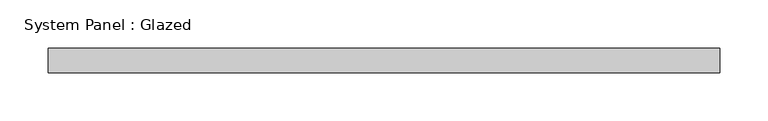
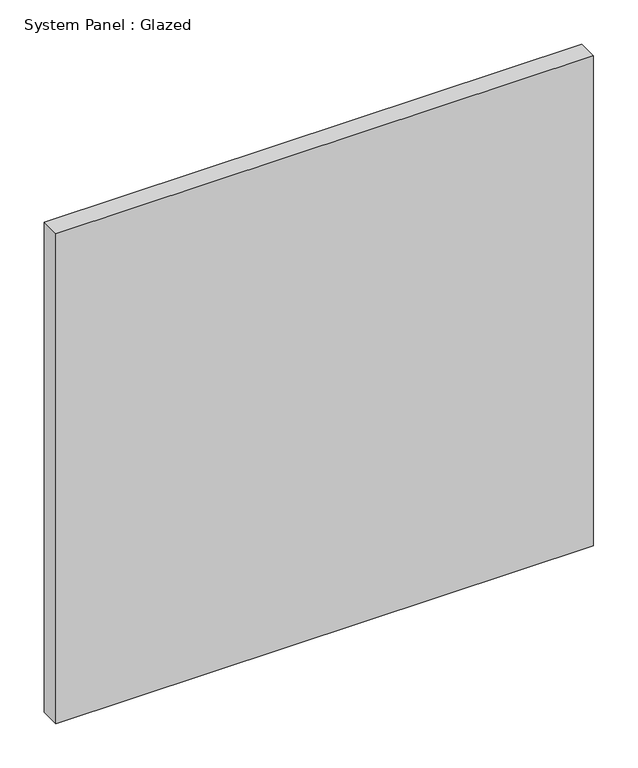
"""IFC4 building model written with IfcOpenShell, lengths in millimetres: plate geometry, System Panel : Glazed."""

from ifc_helpers import new_model, si_unit, origin, origin_with_axes, place, context, project, spatial, polyline, outline, extrude, source, transform, mapped, element, save


def system_panel_glazed_1c0335f5(model_context):
    return source(origin(), model_context, "Body", "SweptSolid", [
        extrude(outline(polyline([(349.1631377, 19.05), (-349.1631377, 19.05), (-349.1631377, 44.45), (349.1631377, 44.45), (349.1631377, 19.05)])), origin_with_axes(), (0.0, 0.0, 1.0), 673.1),
    ])


if __name__ == "__main__":
    model = new_model("IFC4")
    model_context = context("Model", 3, world=origin())
    ifc_project = project(units=[si_unit("LENGTHUNIT", "METRE", prefix="MILLI")], contexts=[model_context])
    site = spatial("IfcSite", under=ifc_project)
    building = spatial("IfcBuilding", under=site)
    placement = place(None, origin())
    system_panel_glazed_shape = system_panel_glazed_1c0335f5(model_context)
    element("IfcPlate", 1, ObjectType="System Panel : Glazed", at=placement, inside=building, context=model_context, shape_type="MappedRepresentation", body=[
        mapped(system_panel_glazed_shape, transform((0.0, 0.0, 0.0), x_axis=(1.0, 0.0, 0.0), y_axis=(0.0, 1.0, 0.0), z_axis=(0.0, 0.0, 1.0))),
    ])
    save(model, "model.ifc")
